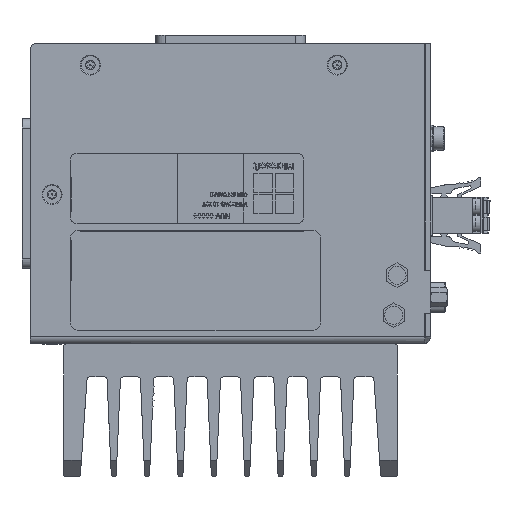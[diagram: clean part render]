
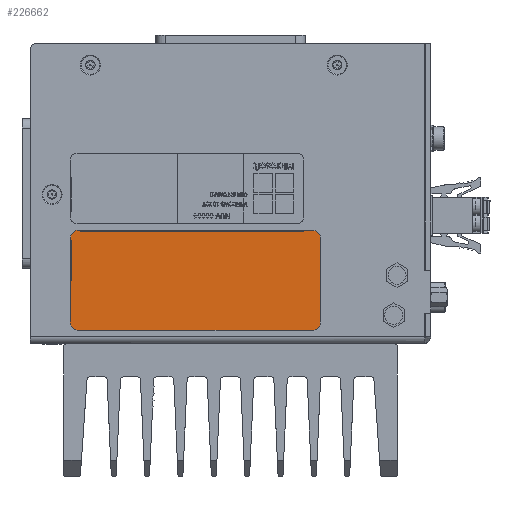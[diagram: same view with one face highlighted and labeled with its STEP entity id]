
A CAD part, left-side view. The second image highlights one B-rep face of the part: STEP entity #226662.
In plain terms, the highlighted planar face has unit normal (-1, 0, 0).
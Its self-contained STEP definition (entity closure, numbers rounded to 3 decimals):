
#6362=PLANE('',#240410);
#15481=FACE_OUTER_BOUND('',#27164,.T.);
#27164=EDGE_LOOP('',(#174829,#174830,#174831,#174832,#174833,#174834,#174835,
#174836));
#40705=CIRCLE('',#240396,2.5);
#40707=CIRCLE('',#240400,2.5);
#40709=CIRCLE('',#240404,2.5);
#40711=CIRCLE('',#240408,2.5);
#54405=LINE('',#343647,#78397);
#54410=LINE('',#343660,#78402);
#54415=LINE('',#343673,#78407);
#54418=LINE('',#343682,#78410);
#78397=VECTOR('',#274119,10.);
#78402=VECTOR('',#274132,10.);
#78407=VECTOR('',#274145,10.);
#78410=VECTOR('',#274156,10.);
#100434=VERTEX_POINT('',#343637);
#100435=VERTEX_POINT('',#343639);
#100437=VERTEX_POINT('',#343645);
#100439=VERTEX_POINT('',#343651);
#100441=VERTEX_POINT('',#343658);
#100443=VERTEX_POINT('',#343664);
#100445=VERTEX_POINT('',#343671);
#100447=VERTEX_POINT('',#343677);
#127072=EDGE_CURVE('',#100435,#100434,#40705,.T.);
#127076=EDGE_CURVE('',#100434,#100437,#54405,.T.);
#127079=EDGE_CURVE('',#100437,#100439,#40707,.T.);
#127083=EDGE_CURVE('',#100439,#100441,#54410,.T.);
#127086=EDGE_CURVE('',#100441,#100443,#40709,.T.);
#127090=EDGE_CURVE('',#100443,#100445,#54415,.T.);
#127093=EDGE_CURVE('',#100445,#100447,#40711,.T.);
#127095=EDGE_CURVE('',#100447,#100435,#54418,.T.);
#174829=ORIENTED_EDGE('',*,*,#127095,.T.);
#174830=ORIENTED_EDGE('',*,*,#127072,.T.);
#174831=ORIENTED_EDGE('',*,*,#127076,.T.);
#174832=ORIENTED_EDGE('',*,*,#127079,.T.);
#174833=ORIENTED_EDGE('',*,*,#127083,.T.);
#174834=ORIENTED_EDGE('',*,*,#127086,.T.);
#174835=ORIENTED_EDGE('',*,*,#127090,.T.);
#174836=ORIENTED_EDGE('',*,*,#127093,.T.);
#226662=ADVANCED_FACE('',(#15481),#6362,.F.);
#240396=AXIS2_PLACEMENT_3D('',#343640,#274112,#274113);
#240400=AXIS2_PLACEMENT_3D('',#343653,#274125,#274126);
#240404=AXIS2_PLACEMENT_3D('',#343666,#274138,#274139);
#240408=AXIS2_PLACEMENT_3D('',#343679,#274151,#274152);
#240410=AXIS2_PLACEMENT_3D('',#343683,#274157,#274158);
#274112=DIRECTION('center_axis',(-1.,0.,0.));
#274113=DIRECTION('ref_axis',(0.,1.,0.));
#274119=DIRECTION('',(0.,0.,1.));
#274125=DIRECTION('center_axis',(-1.,0.,0.));
#274126=DIRECTION('ref_axis',(0.,0.,
-1.));
#274132=DIRECTION('',(0.,1.,0.));
#274138=DIRECTION('center_axis',(-1.,0.,0.));
#274139=DIRECTION('ref_axis',(0.,-1.,0.));
#274145=DIRECTION('',(0.,0.,-1.));
#274151=DIRECTION('center_axis',(-1.,0.,0.));
#274152=DIRECTION('ref_axis',(0.,0.,
1.));
#274156=DIRECTION('',(0.,-1.,0.));
#274157=DIRECTION('center_axis',(1.,0.,0.));
#274158=DIRECTION('ref_axis',(0.,-1.,0.));
#343637=CARTESIAN_POINT('',(-93.08,-27.,6.5));
#343639=CARTESIAN_POINT('',(-93.08,-24.5,4.));
#343640=CARTESIAN_POINT('Origin',(-93.08,-24.5,6.5));
#343645=CARTESIAN_POINT('',(-93.08,-27.,31.5));
#343647=CARTESIAN_POINT('',(-93.08,-27.,6.5));
#343651=CARTESIAN_POINT('',(-93.08,-24.5,34.));
#343653=CARTESIAN_POINT('Origin',(-93.08,-24.5,31.5));
#343658=CARTESIAN_POINT('',(-93.08,45.5,34.));
#343660=CARTESIAN_POINT('',(-93.08,-24.5,34.));
#343664=CARTESIAN_POINT('',(-93.08,48.,31.5));
#343666=CARTESIAN_POINT('Origin',(-93.08,45.5,31.5));
#343671=CARTESIAN_POINT('',(-93.08,48.,6.5));
#343673=CARTESIAN_POINT('',(-93.08,48.,31.5));
#343677=CARTESIAN_POINT('',(-93.08,45.5,4.));
#343679=CARTESIAN_POINT('Origin',(-93.08,45.5,6.5));
#343682=CARTESIAN_POINT('',(-93.08,45.5,4.));
#343683=CARTESIAN_POINT('Origin',(-93.08,10.5,19.));
